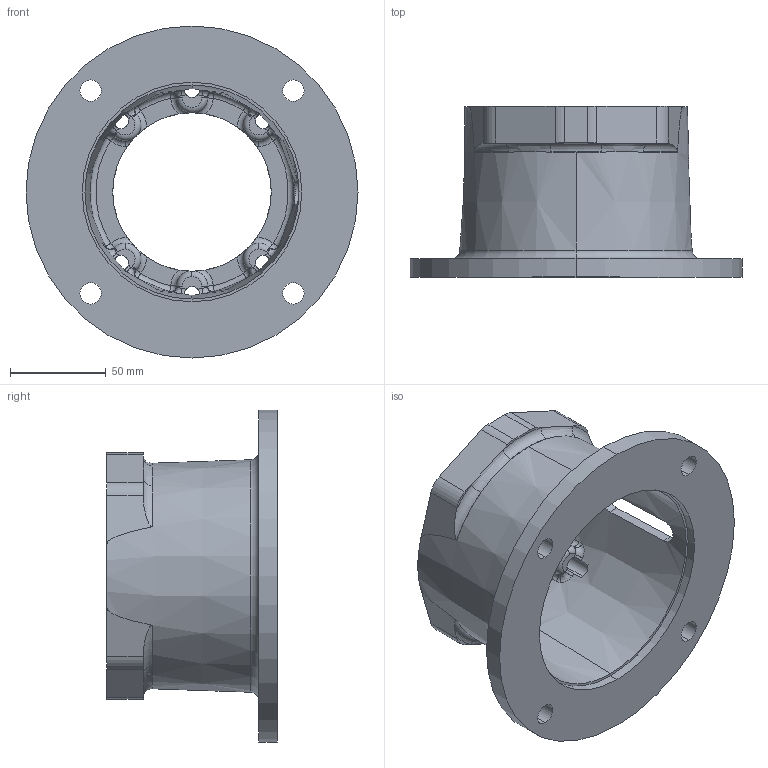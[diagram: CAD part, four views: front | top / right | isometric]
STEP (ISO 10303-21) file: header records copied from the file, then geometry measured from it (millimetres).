
FILE_DESCRIPTION (( 'STEP AP203' ), '1' );
FILE_NAME ('M056352A.STEP', '2007-12-21T20:21:53', ( 'Chris McCoy' ), ( 'Magnaloy Coupling Co' ), 'SwSTEP 2.0', 'SolidWorks 2007', '' );
FILE_SCHEMA (( 'CONFIG_CONTROL_DESIGN' ));
Length unit declared in the file: inch
Products named in the file (1): M056352A
Bounding box: 172.97 x 88.9 x 172.97 mm (x, y, z)
Volume: 322167.8 mm3; surface area: 103701.9 mm2
Topology: 1 solids, 1 shells, 233 faces, 617 edges, 370 vertices
Faces by surface type: torus 61, cylinder 55, bspline 40, plane 34, sphere 24, cone 19
Entity records: 9637 total; most frequent: CARTESIAN_POINT 3988, ORIENTED_EDGE 1210, DIRECTION 1198, EDGE_CURVE 605, AXIS2_PLACEMENT_3D 552, VERTEX_POINT 370, CIRCLE 358, EDGE_LOOP 253
